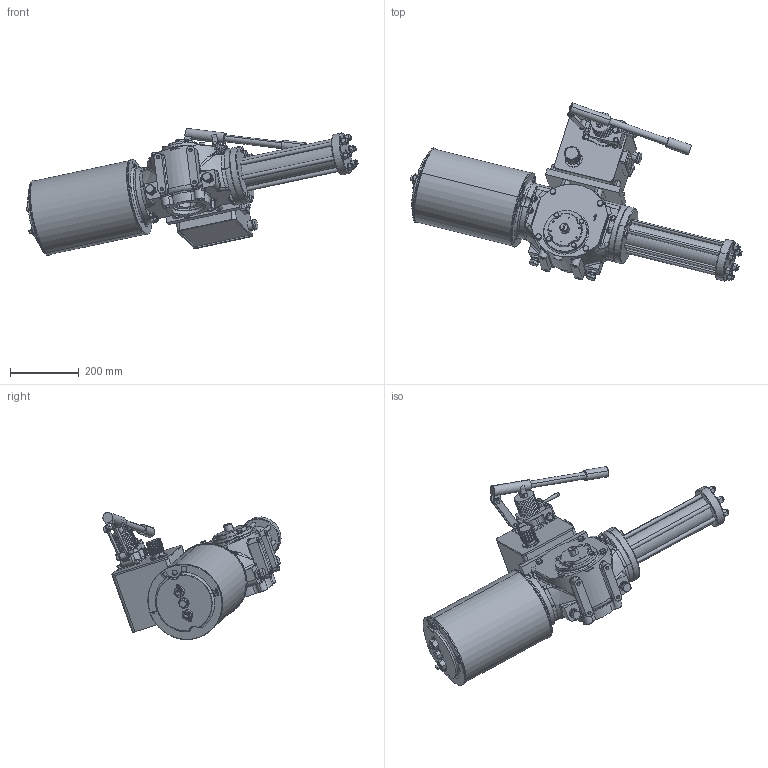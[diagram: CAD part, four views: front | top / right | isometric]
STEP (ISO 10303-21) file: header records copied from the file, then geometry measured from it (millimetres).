
FILE_DESCRIPTION (( 'STEP AP203' ), '1' );
FILE_NAME ('VTS1-200-MH.STEP', '2023-01-01T07:38:10', ( '' ), ( '' ), 'SwSTEP 2.0', 'SolidWorks 2020', '' );
FILE_SCHEMA (( 'CONFIG_CONTROL_DESIGN' ));
Length unit declared in the file: millimetre
Products named in the file (1): VTS1-200-MH
Bounding box: 967.29 x 519.18 x 370.61 mm (x, y, z)
Volume: 24198696.7 mm3; surface area: 1545344.3 mm2
Topology: 59 solids, 62 shells, 2459 faces, 6210 edges, 3982 vertices
Faces by surface type: plane 961, cylinder 803, cone 482, bspline 209, torus 4
Entity records: 103116 total; most frequent: CARTESIAN_POINT 46856, ORIENTED_EDGE 12320, DIRECTION 10655, EDGE_CURVE 6160, AXIS2_PLACEMENT_3D 4064, VERTEX_POINT 3982, EDGE_LOOP 2772, VECTOR 2527
